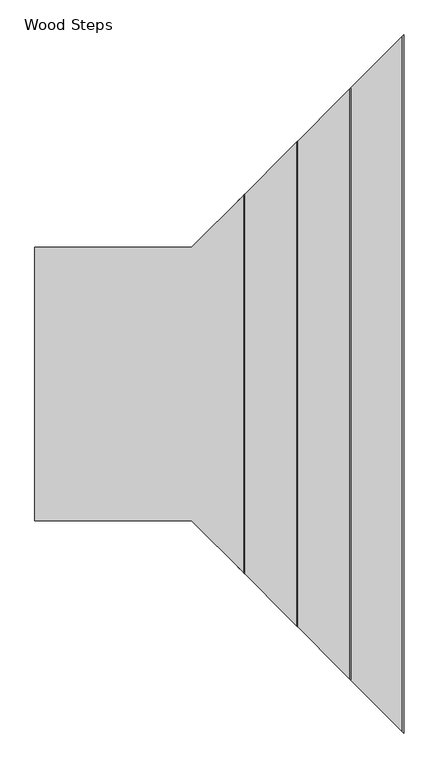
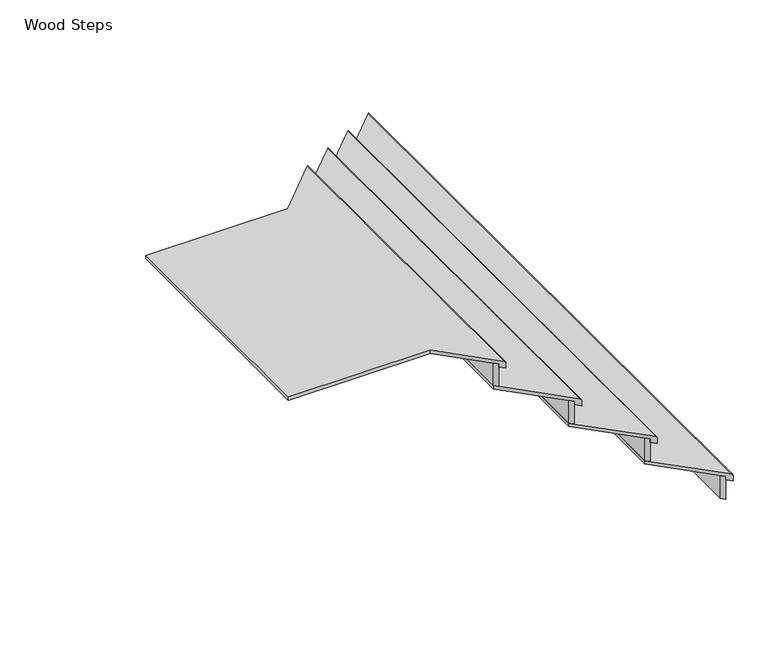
"""IFC4 building model written with IfcOpenShell, lengths in millimetres: stair flight geometry, Wood Steps."""

from ifc_helpers import new_model, si_unit, frame, origin, place, context, project, spatial, ellipse_curve, faceted_brep, source, transform, mapped, element, save
from ifc_brep_helpers import plane_surface, cylinder_surface, advanced_brep


def wood_steps_ea31ebe7(model_context):
    return source(origin(), model_context, "Body", "SolidModel", [
        advanced_brep(
        [(29566.7670833, 12475.2499284, -615.95), (29560.4170833, 12468.8999284, -609.6), (29560.4170833, 8976.3999284, -609.6), (29566.7670833, 8970.0499284, -615.95), (29566.7670833, 12475.2499284, -647.7), (29566.7670833, 8970.0499284, -647.7), (29541.3670833, 12449.8499284, -647.7), (29541.3670833, 8995.4499284, -647.7), (29541.3670833, 8995.4499284, -628.65), (29541.3670833, 12449.8499284, -628.65), (29255.6170833, 12164.0999284, -609.6), (29255.6170833, 9281.1999284, -609.6), (29255.6170833, 9281.1999284, -628.65), (29255.6170833, 12164.0999284, -628.65)],
        [
            (0, 1, ellipse_curve(frame((29560.4170833, 12468.8999284, -615.95), z_axis=(0.7071067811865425, -0.7071067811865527, 0.0), x_axis=(0.7071067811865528, 0.7071067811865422, 0.0)), 8.9802561, 6.35)),
            (1, 2),
            (2, 3, ellipse_curve(frame((29560.4170833, 8976.3999284, -615.95), z_axis=(0.7071067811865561, 0.7071067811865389, 0.0), x_axis=(-0.7071067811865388, 0.7071067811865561, 0.0)), 8.9802561, 6.35)),
            (3, 0),
            (4, 0),
            (3, 5),
            (5, 4),
            (6, 4),
            (5, 7),
            (7, 6),
            (7, 8),
            (8, 9),
            (9, 6),
            (1, 10),
            (10, 11),
            (11, 2),
            (8, 12),
            (12, 13),
            (13, 9),
            (11, 12),
            (13, 10),
        ],
        [
            cylinder_surface(frame((29560.4170833, 12449.8499284, -615.95), z_axis=(0.0, 1.0, 0.0), x_axis=(-1.0, 0.0, 0.0)), 6.35),
            plane_surface(frame((29566.7670833, 12475.2499284, -615.95), z_axis=(1.0, 0.0, 0.0), x_axis=(0.0, -1.0, 0.0))),
            plane_surface(frame((29566.7670833, 12475.2499284, -647.7), z_axis=(0.0, 0.0, -1.0), x_axis=(0.0, -1.0, 0.0))),
            plane_surface(frame((29541.3670833, 12449.8499284, -647.7), z_axis=(-1.0, 0.0, 0.0), x_axis=(0.0, -1.0, 0.0))),
            plane_surface(frame((29053.442428, 9483.3745837, -609.6), z_axis=(0.0, 0.0, 1.0), x_axis=(0.7071067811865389, -0.7071067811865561, 0.0))),
            plane_surface(frame((29053.442428, 9483.3745837, -628.65), z_axis=(0.0, 0.0, -1.0), x_axis=(-0.7071067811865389, 0.7071067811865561, 0.0))),
            plane_surface(frame((29255.6170833, 9281.1999284, -609.6), z_axis=(-0.7071067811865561, -0.7071067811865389, 0.0), x_axis=(0.0, 0.0, -1.0))),
            plane_surface(frame((29541.3670833, 12449.8499284, -609.6), z_axis=(-0.7071067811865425, 0.7071067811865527, 0.0), x_axis=(0.0, 0.0, -1.0))),
            plane_surface(frame((29255.6170833, 12164.0999284, -609.6), z_axis=(-1.0, 0.0, 0.0), x_axis=(0.0, 0.0, -1.0))),
        ],
        [
            (0, [[1, 2, 3, 4]]),
            (1, [[5, -4, 6, 7]]),
            (2, [[8, -7, 9, 10]]),
            (3, [[-10, 11, 12, 13]]),
            (4, [[-2, 14, 15, 16]]),
            (5, [[17, 18, 19, -12]]),
            (6, [[-16, 20, -17, -11, -9, -6, -3]]),
            (7, [[-14, -1, -5, -8, -13, -19, 21]]),
            (8, [[-15, -21, -18, -20]]),
        ],
    ),
        faceted_brep([(29541.3670833, 12449.8499284, -628.65), (29541.3670833, 12449.8499284, -762.0), (29522.3170833, 12430.7999284, -762.0), (29522.3170833, 12430.7999284, -628.65), (29541.3670833, 8995.4499284, -628.65), (29522.3170833, 9014.4999284, -628.65), (29522.3170833, 9014.4999284, -762.0), (29541.3670833, 8995.4499284, -762.0)], [[[0, 1, 2, 3]], [[4, 5, 6, 7]], [[1, 0, 4, 7]], [[2, 1, 7, 6]], [[3, 2, 6, 5]], [[0, 3, 5, 4]]]),
        faceted_brep([(29274.6670833, 12183.1499284, -476.25), (29274.6670833, 12183.1499284, -609.6), (29255.6170833, 12164.0999284, -609.6), (29255.6170833, 12164.0999284, -476.25), (29274.6670833, 9262.1499284, -476.25), (29255.6170833, 9281.1999284, -476.25), (29255.6170833, 9281.1999284, -609.6), (29274.6670833, 9262.1499284, -609.6)], [[[0, 1, 2, 3]], [[4, 5, 6, 7]], [[1, 0, 4, 7]], [[2, 1, 7, 6]], [[3, 2, 6, 5]], [[0, 3, 5, 4]]]),
        advanced_brep(
        [(29293.7170833, 9243.0999284, -457.2), (29293.7170833, 12202.1999284, -457.2), (28988.9170833, 11897.3999284, -457.2), (28988.9170833, 9547.8999284, -457.2), (29274.6670833, 9262.1499284, -476.25), (28988.9170833, 9547.8999284, -476.25), (28988.9170833, 11897.3999284, -476.25), (29274.6670833, 12183.1499284, -476.25), (29300.0670833, 12208.5499284, -463.55), (29300.0670833, 9236.7499284, -463.55), (29300.0670833, 12208.5499284, -495.3), (29300.0670833, 9236.7499284, -495.3), (29274.6670833, 12183.1499284, -495.3), (29274.6670833, 9262.1499284, -495.3)],
        [
            (0, 1),
            (1, 2),
            (2, 3),
            (3, 0),
            (4, 5),
            (5, 6),
            (6, 7),
            (7, 4),
            (2, 6),
            (5, 3),
            (8, 1, ellipse_curve(frame((29293.7170833, 12202.1999284, -463.55), z_axis=(0.7071067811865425, -0.7071067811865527, 0.0), x_axis=(0.7071067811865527, 0.7071067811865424, 0.0)), 8.9802561, 6.35)),
            (0, 9, ellipse_curve(frame((29293.7170833, 9243.0999284, -463.55), z_axis=(0.7071067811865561, 0.7071067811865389, 0.0), x_axis=(-0.7071067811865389, 0.707106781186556, 0.0)), 8.9802561, 6.35)),
            (9, 8),
            (10, 8),
            (9, 11),
            (11, 10),
            (12, 10),
            (11, 13),
            (13, 12),
            (13, 4),
            (7, 12),
        ],
        [
            plane_surface(frame((29053.442428, 9483.3745837, -457.2), z_axis=(0.0, 0.0, 1.0), x_axis=(0.7071067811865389, -0.7071067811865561, 0.0))),
            plane_surface(frame((29053.442428, 9483.3745837, -476.25), z_axis=(0.0, 0.0, -1.0), x_axis=(-0.7071067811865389, 0.7071067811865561, 0.0))),
            plane_surface(frame((28988.9170833, 11897.3999284, -457.2), z_axis=(-1.0, 0.0, 0.0), x_axis=(0.0, 0.0, -1.0))),
            cylinder_surface(frame((29293.7170833, 12183.1499284, -463.55), z_axis=(0.0, 1.0, 0.0), x_axis=(-1.0, 0.0, 0.0)), 6.35),
            plane_surface(frame((29300.0670833, 12208.5499284, -463.55), z_axis=(1.0, 0.0, 0.0), x_axis=(0.0, -1.0, 0.0))),
            plane_surface(frame((29300.0670833, 12208.5499284, -495.3), z_axis=(0.0, 0.0, -1.0), x_axis=(0.0, -1.0, 0.0))),
            plane_surface(frame((29274.6670833, 12183.1499284, -495.3), z_axis=(-1.0, 0.0, 0.0), x_axis=(0.0, -1.0, 0.0))),
            plane_surface(frame((28988.9170833, 9547.8999284, -457.2), z_axis=(-0.7071067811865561, -0.7071067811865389, 0.0), x_axis=(0.0, 0.0, -1.0))),
            plane_surface(frame((29274.6670833, 12183.1499284, -457.2), z_axis=(-0.7071067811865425, 0.7071067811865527, 0.0), x_axis=(0.0, 0.0, -1.0))),
        ],
        [
            (0, [[1, 2, 3, 4]]),
            (1, [[5, 6, 7, 8]]),
            (2, [[-3, 9, -6, 10]]),
            (3, [[11, -1, 12, 13]]),
            (4, [[14, -13, 15, 16]]),
            (5, [[17, -16, 18, 19]]),
            (6, [[-19, 20, -8, 21]]),
            (7, [[-4, -10, -5, -20, -18, -15, -12]]),
            (8, [[-2, -11, -14, -17, -21, -7, -9]]),
        ],
    ),
        faceted_brep([(28741.2670833, 11649.7499284, -171.45), (28741.2670833, 11649.7499284, -304.8), (28722.2170833, 11630.6999284, -304.8), (28722.2170833, 11630.6999284, -171.45), (28741.2670833, 9795.5499284, -171.45), (28722.2170833, 9814.5999284, -171.45), (28722.2170833, 9814.5999284, -304.8), (28741.2670833, 9795.5499284, -304.8)], [[[0, 1, 2, 3]], [[4, 5, 6, 7]], [[1, 0, 4, 7]], [[2, 1, 7, 6]], [[3, 2, 6, 5]], [[0, 3, 5, 4]]]),
        advanced_brep(
        [(27712.5670833, 10036.8499284, -152.4), (28499.9670833, 10036.8499284, -152.4), (28760.3170833, 9776.4999284, -152.4), (28760.3170833, 11668.7999284, -152.4), (28499.9670833, 11408.4499284, -152.4), (27712.5670833, 11408.4499284, -152.4), (28499.9670833, 10036.8499284, -171.45), (27712.5670833, 10036.8499284, -171.45), (27712.5670833, 11408.4499284, -171.45), (28499.9670833, 11408.4499284, -171.45), (28741.2670833, 11649.7499284, -171.45), (28741.2670833, 9795.5499284, -171.45), (28766.6670833, 11675.1499284, -158.75), (28766.6670833, 9770.1499284, -158.75), (28766.6670833, 11675.1499284, -190.5), (28766.6670833, 9770.1499284, -190.5), (28741.2670833, 11649.7499284, -190.5), (28741.2670833, 9795.5499284, -190.5)],
        [
            (0, 1),
            (1, 2),
            (2, 3),
            (3, 4),
            (4, 5),
            (5, 0),
            (6, 7),
            (7, 8),
            (8, 9),
            (9, 10),
            (10, 11),
            (11, 6),
            (5, 8),
            (7, 0),
            (12, 3, ellipse_curve(frame((28760.3170833, 11668.7999284, -158.75), z_axis=(0.7071067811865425, -0.7071067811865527, 0.0), x_axis=(0.7071067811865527, 0.7071067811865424, 0.0)), 8.9802561, 6.35)),
            (2, 13, ellipse_curve(frame((28760.3170833, 9776.4999284, -158.75), z_axis=(0.7071067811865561, 0.7071067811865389, 0.0), x_axis=(-0.7071067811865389, 0.707106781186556, 0.0)), 8.9802561, 6.35)),
            (13, 12),
            (14, 12),
            (13, 15),
            (15, 14),
            (16, 14),
            (15, 17),
            (17, 16),
            (17, 11),
            (10, 16),
            (6, 1),
            (9, 4),
        ],
        [
            plane_surface(frame((28499.9670833, 10036.8499284, -152.4), z_axis=(0.0, 0.0, 1.0), x_axis=(1.0, 0.0, 0.0))),
            plane_surface(frame((28499.9670833, 10036.8499284, -171.45), z_axis=(0.0, 0.0, -1.0), x_axis=(-1.0, 0.0, 0.0))),
            plane_surface(frame((27712.5670833, 11408.4499284, -152.4), z_axis=(-1.0, 0.0, 0.0), x_axis=(0.0, 0.0, -1.0))),
            cylinder_surface(frame((28760.3170833, 11649.7499284, -158.75), z_axis=(0.0, 1.0, 0.0), x_axis=(-1.0, 0.0, 0.0)), 6.35),
            plane_surface(frame((28766.6670833, 11675.1499284, -158.75), z_axis=(1.0, 0.0, 0.0), x_axis=(0.0, -1.0, 0.0))),
            plane_surface(frame((28766.6670833, 11675.1499284, -190.5), z_axis=(0.0, 0.0, -1.0), x_axis=(0.0, -1.0, 0.0))),
            plane_surface(frame((28741.2670833, 11649.7499284, -190.5), z_axis=(-1.0, 0.0, 0.0), x_axis=(0.0, -1.0, 0.0))),
            plane_surface(frame((27712.5670833, 10036.8499284, -152.4), z_axis=(0.0, -1.0, 0.0), x_axis=(0.0, 0.0, -1.0))),
            plane_surface(frame((28499.9670833, 10036.8499284, -152.4), z_axis=(-0.7071067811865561, -0.7071067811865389, 0.0), x_axis=(0.0, 0.0, -1.0))),
            plane_surface(frame((28741.2670833, 11649.7499284, -152.4), z_axis=(-0.7071067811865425, 0.7071067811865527, 0.0), x_axis=(0.0, 0.0, -1.0))),
            plane_surface(frame((28499.9670833, 11408.4499284, -152.4), z_axis=(0.0, 1.0, 0.0), x_axis=(0.0, 0.0, -1.0))),
        ],
        [
            (0, [[1, 2, 3, 4, 5, 6]]),
            (1, [[7, 8, 9, 10, 11, 12]]),
            (2, [[-6, 13, -8, 14]]),
            (3, [[15, -3, 16, 17]]),
            (4, [[18, -17, 19, 20]]),
            (5, [[21, -20, 22, 23]]),
            (6, [[-23, 24, -11, 25]]),
            (7, [[-1, -14, -7, 26]]),
            (8, [[-2, -26, -12, -24, -22, -19, -16]]),
            (9, [[-4, -15, -18, -21, -25, -10, 27]]),
            (10, [[-5, -27, -9, -13]]),
        ],
    ),
        faceted_brep([(29007.9670833, 11916.4499284, -323.85), (29007.9670833, 11916.4499284, -457.2), (28988.9170833, 11897.3999284, -457.2), (28988.9170833, 11897.3999284, -323.85), (29007.9670833, 9528.8499284, -323.85), (28988.9170833, 9547.8999284, -323.85), (28988.9170833, 9547.8999284, -457.2), (29007.9670833, 9528.8499284, -457.2)], [[[0, 1, 2, 3]], [[4, 5, 6, 7]], [[1, 0, 4, 7]], [[2, 1, 7, 6]], [[3, 2, 6, 5]], [[0, 3, 5, 4]]]),
        advanced_brep(
        [(29027.0170833, 9509.7999284, -304.8), (29027.0170833, 11935.4999284, -304.8), (28722.2170833, 11630.6999284, -304.8), (28722.2170833, 9814.5999284, -304.8), (29007.9670833, 9528.8499284, -323.85), (28722.2170833, 9814.5999284, -323.85), (28722.2170833, 11630.6999284, -323.85), (29007.9670833, 11916.4499284, -323.85), (29033.3670833, 11941.8499284, -311.15), (29033.3670833, 9503.4499284, -311.15), (29033.3670833, 11941.8499284, -342.9), (29033.3670833, 9503.4499284, -342.9), (29007.9670833, 11916.4499284, -342.9), (29007.9670833, 9528.8499284, -342.9)],
        [
            (0, 1),
            (1, 2),
            (2, 3),
            (3, 0),
            (4, 5),
            (5, 6),
            (6, 7),
            (7, 4),
            (2, 6),
            (5, 3),
            (8, 1, ellipse_curve(frame((29027.0170833, 11935.4999284, -311.15), z_axis=(0.7071067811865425, -0.7071067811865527, 0.0), x_axis=(0.7071067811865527, 0.7071067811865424, 0.0)), 8.9802561, 6.35)),
            (0, 9, ellipse_curve(frame((29027.0170833, 9509.7999284, -311.15), z_axis=(0.7071067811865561, 0.7071067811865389, 0.0), x_axis=(-0.7071067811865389, 0.707106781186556, 0.0)), 8.9802561, 6.35)),
            (9, 8),
            (10, 8),
            (9, 11),
            (11, 10),
            (12, 10),
            (11, 13),
            (13, 12),
            (13, 4),
            (7, 12),
        ],
        [
            plane_surface(frame((29053.442428, 9483.3745837, -304.8), z_axis=(0.0, 0.0, 1.0), x_axis=(0.7071067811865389, -0.7071067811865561, 0.0))),
            plane_surface(frame((29053.442428, 9483.3745837, -323.85), z_axis=(0.0, 0.0, -1.0), x_axis=(-0.7071067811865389, 0.7071067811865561, 0.0))),
            plane_surface(frame((28722.2170833, 11630.6999284, -304.8), z_axis=(-1.0, 0.0, 0.0), x_axis=(0.0, 0.0, -1.0))),
            cylinder_surface(frame((29027.0170833, 11916.4499284, -311.15), z_axis=(0.0, 1.0, 0.0), x_axis=(-1.0, 0.0, 0.0)), 6.35),
            plane_surface(frame((29033.3670833, 11941.8499284, -311.15), z_axis=(1.0, 0.0, 0.0), x_axis=(0.0, -1.0, 0.0))),
            plane_surface(frame((29033.3670833, 11941.8499284, -342.9), z_axis=(0.0, 0.0, -1.0), x_axis=(0.0, -1.0, 0.0))),
            plane_surface(frame((29007.9670833, 11916.4499284, -342.9), z_axis=(-1.0, 0.0, 0.0), x_axis=(0.0, -1.0, 0.0))),
            plane_surface(frame((28722.2170833, 9814.5999284, -304.8), z_axis=(-0.7071067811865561, -0.7071067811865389, 0.0), x_axis=(0.0, 0.0, -1.0))),
            plane_surface(frame((29007.9670833, 11916.4499284, -304.8), z_axis=(-0.7071067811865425, 0.7071067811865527, 0.0), x_axis=(0.0, 0.0, -1.0))),
        ],
        [
            (0, [[1, 2, 3, 4]]),
            (1, [[5, 6, 7, 8]]),
            (2, [[-3, 9, -6, 10]]),
            (3, [[11, -1, 12, 13]]),
            (4, [[14, -13, 15, 16]]),
            (5, [[17, -16, 18, 19]]),
            (6, [[-19, 20, -8, 21]]),
            (7, [[-4, -10, -5, -20, -18, -15, -12]]),
            (8, [[-2, -11, -14, -17, -21, -7, -9]]),
        ],
    ),
    ])


if __name__ == "__main__":
    model = new_model("IFC4")
    model_context = context("Model", 3, world=origin())
    ifc_project = project(units=[si_unit("LENGTHUNIT", "METRE", prefix="MILLI")], contexts=[model_context])
    site = spatial("IfcSite", under=ifc_project)
    building = spatial("IfcBuilding", under=site)
    placement = place(None, origin())
    wood_steps_shape = wood_steps_ea31ebe7(model_context)
    element("IfcStairFlight", 1, ObjectType="Wood Steps", at=placement, inside=building, context=model_context, shape_type="MappedRepresentation", body=[
        mapped(wood_steps_shape, transform((0.0, 0.0, 0.0), x_axis=(1.0, 0.0, 0.0), y_axis=(0.0, 1.0, 0.0), z_axis=(0.0, 0.0, 1.0))),
    ])
    save(model, "model.ifc")
